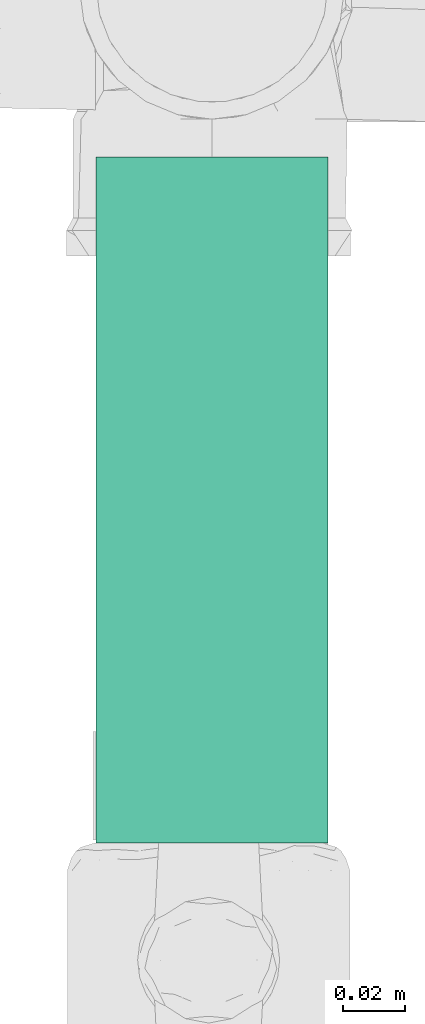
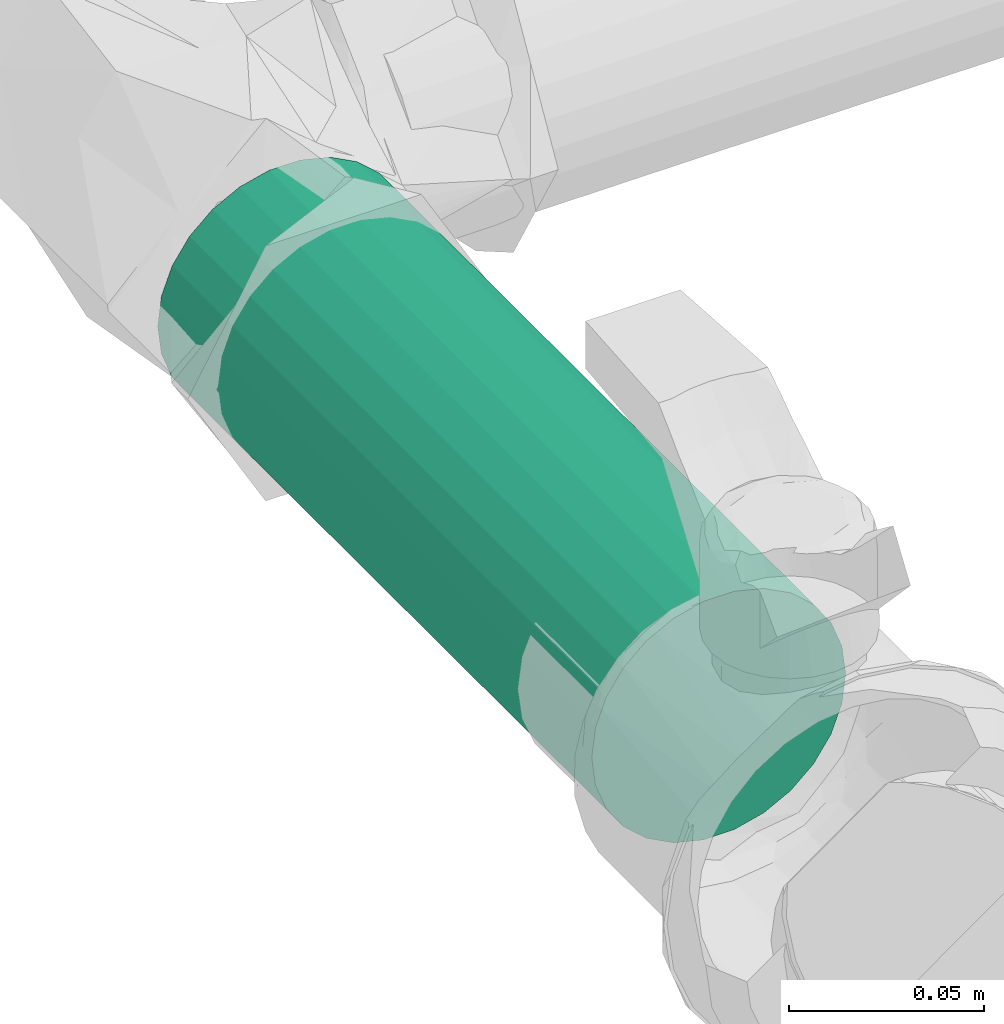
# One storey, part 59 of 166: 1 flow segment.
"""IFC2X3 building model written with IfcOpenShell, lengths in metres."""

from ifc_helpers import new_model, entity, si_unit, converted_unit, direction, frame, origin, origin_2d_with_axis, place, context, subcontext, project, spatial, circle, extrude, type_object, element, save


model = new_model("IFC2X3")

# Units and contexts
model_context = context("Model", 3, precision=1e-05, world=origin(), true_north=direction((6.123233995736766e-17, 1.0)))
body_context = subcontext(model_context, "Body", "Model", "MODEL_VIEW")
ifc_project = project(units=[si_unit("LENGTHUNIT", "METRE"), converted_unit("PLANEANGLEUNIT", "DEGREE", entity("IfcPlaneAngleMeasure", 0.017453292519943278), si_unit("PLANEANGLEUNIT", "RADIAN"), dimensions=[0, 0, 0, 0, 0, 0, 0]), si_unit("AREAUNIT", "SQUARE_METRE")], contexts=[model_context])

# Site, building, storey
site_placement = place(None, origin())
site = spatial("IfcSite", under=ifc_project, at=site_placement, Name="Default", CompositionType="ELEMENT")
building_placement = place(site_placement, origin())
building = spatial("IfcBuilding", under=site, at=building_placement, Name="CASA DE ACOLHIDA PARA IDOSOS", CompositionType="ELEMENT")
storey_placement = place(building_placement, frame((0.0, 0.0, -1.7499999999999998)))
storey = spatial("IfcBuildingStorey", under=building, at=storey_placement, Name="IMPLANTAÇÃO DRENAGEM", CompositionType="ELEMENT", Elevation=-1.7499999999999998)

# Flow segment
pipe_segment_type = type_object("IfcPipeSegmentType", Name="Tipos de tubos:AF_Tubo Marrom Soldável", PredefinedType="NOTDEFINED")
flow_segment_placement = place(storey_placement, origin())
element("IfcFlowSegment", 1, at=flow_segment_placement, inside=storey, type_object=pipe_segment_type, Name="Tipos de tubos:AF_Tubo Marrom Soldável", ObjectType="Tipos de tubos:AF_Tubo Marrom Soldável", context=body_context, shape_type="SweptSolid", body=[
    extrude(circle(Radius=0.037500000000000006, at=origin_2d_with_axis()), frame((-62.75891005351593, -0.528750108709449, 0.13343317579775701), z_axis=(0.0, 1.0, 0.0), x_axis=(-1.0, 0.0, 0.0)), (0.0, 0.0, 1.0), 0.22207194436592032),
])

save(model, "model.ifc")
